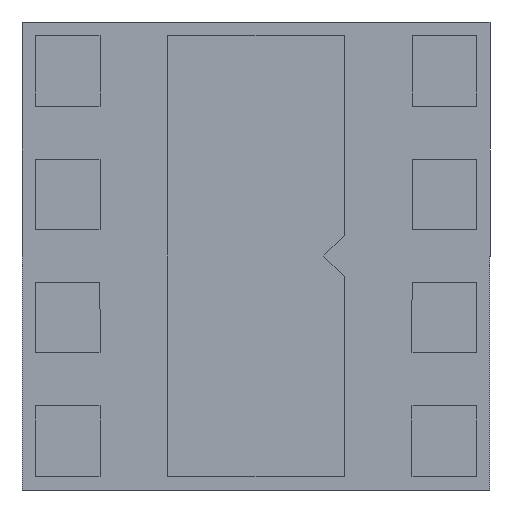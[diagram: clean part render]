
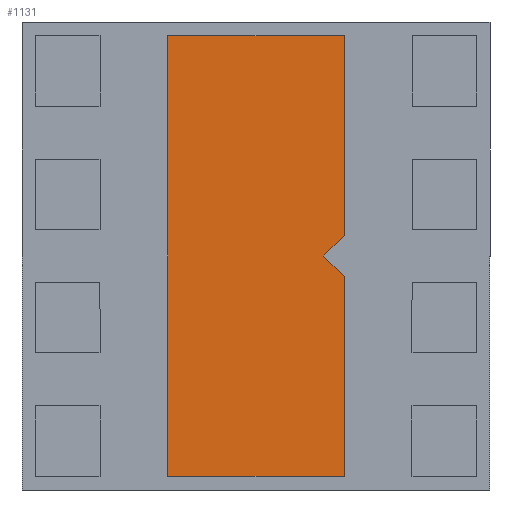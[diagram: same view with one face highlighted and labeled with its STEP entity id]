
A CAD part, front view. The second image highlights one B-rep face of the part: STEP entity #1131.
In plain terms, the highlighted planar face has unit normal (0, -1, 0).
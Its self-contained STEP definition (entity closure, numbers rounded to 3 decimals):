
#33 = ORIENTED_EDGE ( 'NONE', *, *, #797, .T. ) ;
#57 = DIRECTION ( 'NONE',  ( 0., -1., 0. ) ) ;
#58 = EDGE_CURVE ( 'NONE', #1061, #1841, #119, .T. ) ;
#96 = CARTESIAN_POINT ( 'NONE',  ( 0.65, -0.065, 0.15 ) ) ;
#97 = CARTESIAN_POINT ( 'NONE',  ( -0.65, -0.065, -1.625 ) ) ;
#98 = CARTESIAN_POINT ( 'NONE',  ( 0.65, -0.065, 1.625 ) ) ;
#102 = CARTESIAN_POINT ( 'NONE',  ( 0.65, -0.065, -0.15 ) ) ;
#119 = LINE ( 'NONE', #97, #933 ) ;
#127 = ORIENTED_EDGE ( 'NONE', *, *, #1276, .T. ) ;
#205 = LINE ( 'NONE', #98, #548 ) ;
#221 = VERTEX_POINT ( 'NONE', #102 ) ;
#230 = ORIENTED_EDGE ( 'NONE', *, *, #491, .T. ) ;
#326 = CARTESIAN_POINT ( 'NONE',  ( 0., -0.065, 0. ) ) ;
#364 = VERTEX_POINT ( 'NONE', #1427 ) ;
#406 = EDGE_LOOP ( 'NONE', ( #127, #230, #999, #1818, #1132, #33, #947 ) ) ;
#478 = VECTOR ( 'NONE', #712, 1000. ) ;
#484 = CARTESIAN_POINT ( 'NONE',  ( 0.65, -0.065, -1.625 ) ) ;
#489 = EDGE_CURVE ( 'NONE', #221, #768, #1776, .T. ) ;
#491 = EDGE_CURVE ( 'NONE', #1014, #1061, #1312, .T. ) ;
#528 = LINE ( 'NONE', #714, #1635 ) ;
#532 = DIRECTION ( 'NONE',  ( 0.707, 0., 0.707 ) ) ;
#547 = DIRECTION ( 'NONE',  ( 0., 0., 1. ) ) ;
#548 = VECTOR ( 'NONE', #1239, 1000. ) ;
#615 = CARTESIAN_POINT ( 'NONE',  ( 0.5, -0.065, 0. ) ) ;
#624 = DIRECTION ( 'NONE',  ( 0., 0., -1. ) ) ;
#653 = CARTESIAN_POINT ( 'NONE',  ( 0.65, -0.065, 0.15 ) ) ;
#671 = DIRECTION ( 'NONE',  ( 1., 0., 0. ) ) ;
#712 = DIRECTION ( 'NONE',  ( 0., 0., 1. ) ) ;
#714 = CARTESIAN_POINT ( 'NONE',  ( 0.65, -0.065, -0.15 ) ) ;
#744 = AXIS2_PLACEMENT_3D ( 'NONE', #326, #57, #624 ) ;
#768 = VERTEX_POINT ( 'NONE', #1517 ) ;
#797 = EDGE_CURVE ( 'NONE', #768, #1863, #1250, .T. ) ;
#902 = CARTESIAN_POINT ( 'NONE',  ( -0.65, -0.065, 1.625 ) ) ;
#933 = VECTOR ( 'NONE', #671, 1000. ) ;
#947 = ORIENTED_EDGE ( 'NONE', *, *, #1518, .T. ) ;
#974 = EDGE_CURVE ( 'NONE', #1841, #221, #528, .T. ) ;
#999 = ORIENTED_EDGE ( 'NONE', *, *, #58, .T. ) ;
#1014 = VERTEX_POINT ( 'NONE', #1304 ) ;
#1018 = LINE ( 'NONE', #1557, #478 ) ;
#1054 = DIRECTION ( 'NONE',  ( -0.707, 0., 0.707 ) ) ;
#1061 = VERTEX_POINT ( 'NONE', #1177 ) ;
#1131 = ADVANCED_FACE ( 'NONE', ( #1416 ), #1771, .T. ) ;
#1132 = ORIENTED_EDGE ( 'NONE', *, *, #489, .T. ) ;
#1160 = VECTOR ( 'NONE', #532, 1000. ) ;
#1177 = CARTESIAN_POINT ( 'NONE',  ( -0.65, -0.065, -1.625 ) ) ;
#1239 = DIRECTION ( 'NONE',  ( -1., 0., 0. ) ) ;
#1250 = LINE ( 'NONE', #96, #1160 ) ;
#1276 = EDGE_CURVE ( 'NONE', #364, #1014, #205, .T. ) ;
#1304 = CARTESIAN_POINT ( 'NONE',  ( -0.65, -0.065, 1.625 ) ) ;
#1312 = LINE ( 'NONE', #902, #1400 ) ;
#1400 = VECTOR ( 'NONE', #1476, 1000. ) ;
#1416 = FACE_OUTER_BOUND ( 'NONE', #406, .T. ) ;
#1427 = CARTESIAN_POINT ( 'NONE',  ( 0.65, -0.065, 1.625 ) ) ;
#1476 = DIRECTION ( 'NONE',  ( 0., 0., -1. ) ) ;
#1517 = CARTESIAN_POINT ( 'NONE',  ( 0.5, -0.065, 0. ) ) ;
#1518 = EDGE_CURVE ( 'NONE', #1863, #364, #1018, .T. ) ;
#1557 = CARTESIAN_POINT ( 'NONE',  ( 0.65, -0.065, 1.625 ) ) ;
#1613 = VECTOR ( 'NONE', #1054, 1000. ) ;
#1635 = VECTOR ( 'NONE', #547, 1000. ) ;
#1771 = PLANE ( 'NONE',  #744 ) ;
#1776 = LINE ( 'NONE', #615, #1613 ) ;
#1818 = ORIENTED_EDGE ( 'NONE', *, *, #974, .T. ) ;
#1841 = VERTEX_POINT ( 'NONE', #484 ) ;
#1863 = VERTEX_POINT ( 'NONE', #653 ) ;
